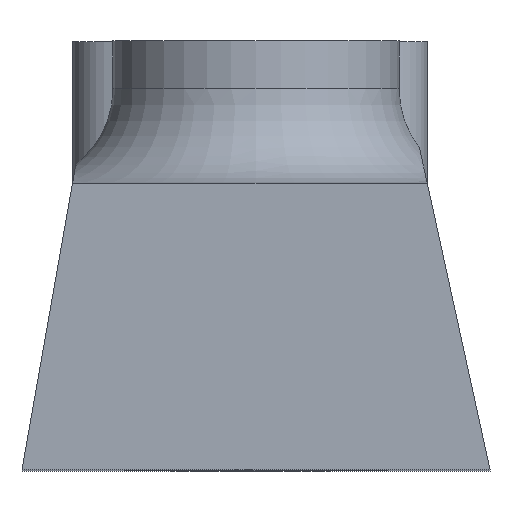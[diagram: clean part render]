
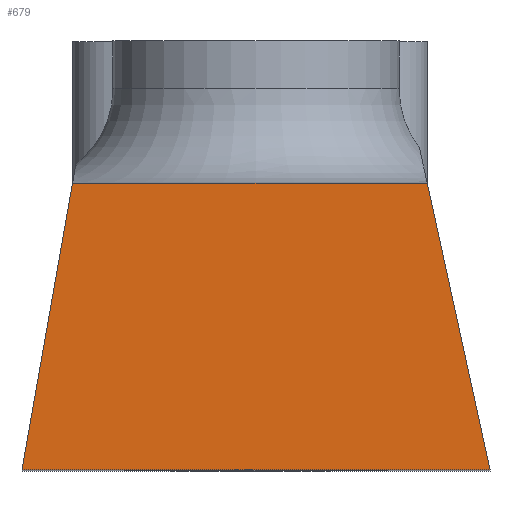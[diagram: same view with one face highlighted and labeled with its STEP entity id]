
A CAD part, top view. The second image highlights one B-rep face of the part: STEP entity #679.
In plain terms, the highlighted planar face has unit normal (0, 0, 1).
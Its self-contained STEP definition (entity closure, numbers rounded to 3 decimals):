
#101=FACE_OUTER_BOUND('',#147,.T.);
#147=EDGE_LOOP('',(#600,#601,#602,#603,#604));
#177=LINE('',#1080,#241);
#204=LINE('',#1186,#268);
#208=LINE('',#1197,#272);
#211=LINE('',#1203,#275);
#212=LINE('',#1205,#276);
#241=VECTOR('',#848,10.);
#268=VECTOR('',#931,10.);
#272=VECTOR('',#945,10.);
#275=VECTOR('',#950,10.);
#276=VECTOR('',#953,10.);
#306=VERTEX_POINT('',#1077);
#307=VERTEX_POINT('',#1079);
#331=VERTEX_POINT('',#1167);
#335=VERTEX_POINT('',#1195);
#337=VERTEX_POINT('',#1201);
#378=EDGE_CURVE('',#307,#306,#177,.T.);
#420=EDGE_CURVE('',#306,#331,#204,.T.);
#425=EDGE_CURVE('',#331,#335,#208,.T.);
#428=EDGE_CURVE('',#335,#337,#211,.T.);
#429=EDGE_CURVE('',#337,#307,#212,.T.);
#600=ORIENTED_EDGE('',*,*,#378,.T.);
#601=ORIENTED_EDGE('',*,*,#420,.T.);
#602=ORIENTED_EDGE('',*,*,#425,.T.);
#603=ORIENTED_EDGE('',*,*,#428,.T.);
#604=ORIENTED_EDGE('',*,*,#429,.T.);
#641=PLANE('',#765);
#679=ADVANCED_FACE('',(#101),#641,.T.);
#765=AXIS2_PLACEMENT_3D('',#1207,#955,#956);
#848=DIRECTION('',(-0.214,0.977,0.));
#931=DIRECTION('',(-1.,0.,0.));
#945=DIRECTION('',(-1.,0.,0.));
#950=DIRECTION('',(-0.174,-0.985,0.));
#953=DIRECTION('',(1.,0.,0.));
#955=DIRECTION('center_axis',(0.,0.,1.));
#956=DIRECTION('ref_axis',(1.,0.,0.));
#1077=CARTESIAN_POINT('',(-0.611,8.15,0.));
#1079=CARTESIAN_POINT('',(0.703,2.15,0.));
#1080=CARTESIAN_POINT('',(0.703,2.15,0.));
#1167=CARTESIAN_POINT('',(-4.203,8.15,0.));
#1186=CARTESIAN_POINT('',(-0.203,8.15,0.));
#1195=CARTESIAN_POINT('',(-8.05,8.15,0.));
#1197=CARTESIAN_POINT('',(-0.203,8.15,0.));
#1201=CARTESIAN_POINT('',(-9.108,2.15,0.));
#1203=CARTESIAN_POINT('',(-8.05,8.15,0.));
#1205=CARTESIAN_POINT('',(-9.108,2.15,0.));
#1207=CARTESIAN_POINT('Origin',(-4.203,5.15,0.));
